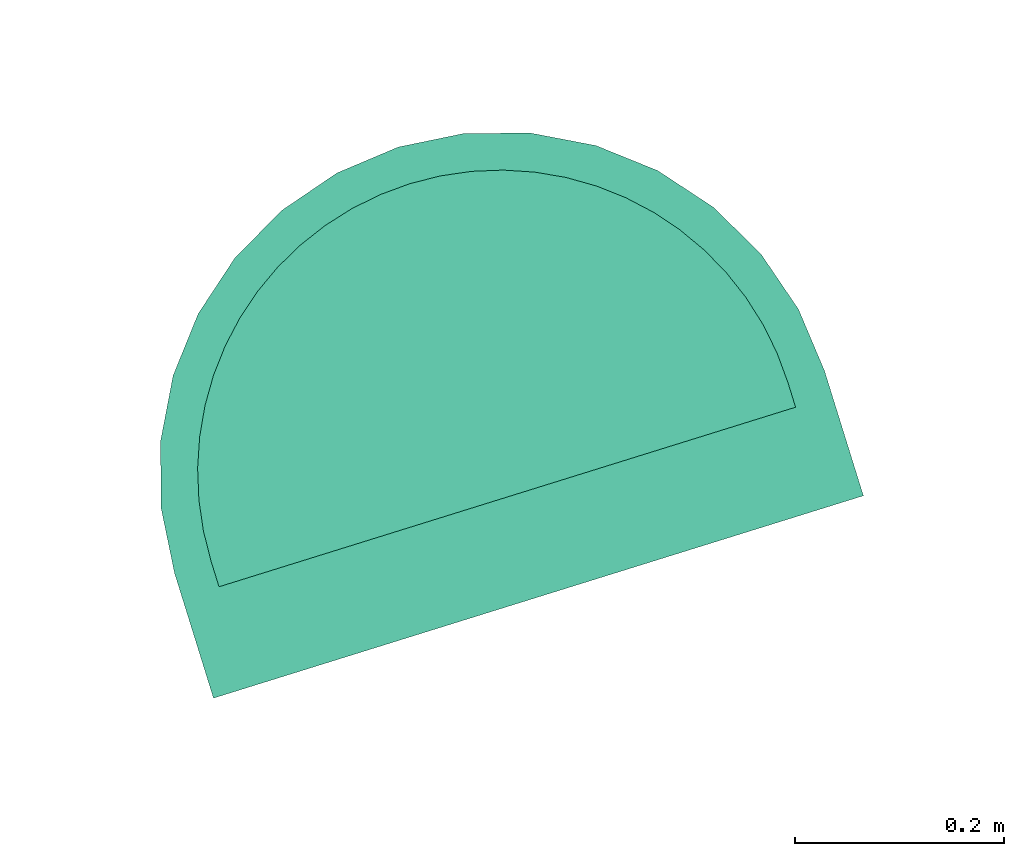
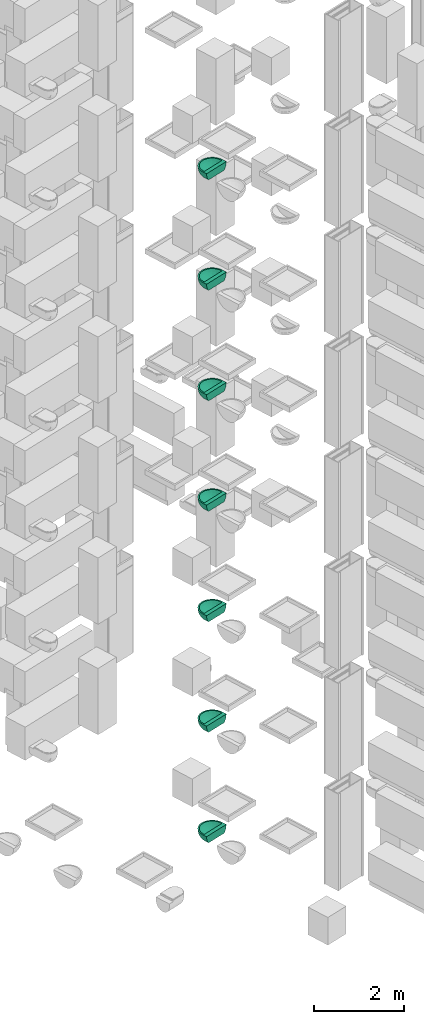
# Not in any storey, part 6 of 17: 7 sanitary terminals.
"""IFC4 model written with IfcOpenShell, lengths in metres."""

from ifc_helpers import new_model, entity, si_unit, converted_unit, direction, frame, origin, place, context, subcontext, project, polygons, source, transform, mapped, material, type_object, type_shapes, element, save


model = new_model("IFC4")

# Units and contexts
model_context = context("Model", 3, precision=1e-05, world=origin(), true_north=direction((6.12323399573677e-17, 1.0)))
body_context = subcontext(model_context, "Body", "Model", "MODEL_VIEW")
ifc_project = project(units=[si_unit("LENGTHUNIT", "METRE"), si_unit("AREAUNIT", "SQUARE_METRE"), converted_unit("PLANEANGLEUNIT", "DEGREE", entity("IfcPlaneAngleMeasure", 0.0174532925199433), si_unit("PLANEANGLEUNIT", "RADIAN"), dimensions=[0, 0, 0, 0, 0, 0, 0]), si_unit("VOLUMEUNIT", "CUBIC_METRE")], contexts=[model_context])

# Sanitary terminals
ifc_material = material(Name="<Unnamed>")
sanitary_terminal_type = type_object("IfcSanitaryTerminalType", Name="NLRS_74_PF_WB_wastafel_gen:wastafel", PredefinedType="SINK", material=ifc_material)
shared_shape = source(origin(), body_context, "Body", "Tessellation", [
    polygons([(0.346918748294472, -0.250000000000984, -6.7), (0.34246627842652, -0.250000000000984, -6.75361232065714), (0.329230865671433, -0.250000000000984, -6.8057556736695), (0.307575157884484, -0.250000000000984, -6.85500134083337), (0.278092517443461, -0.250000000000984, -6.9), (0.278092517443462, -0.124999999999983, -6.9), (0.307569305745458, -0.124999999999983, -6.85501212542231), (0.32922351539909, -0.124999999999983, -6.80577703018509), (0.342460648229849, -0.124999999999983, -6.75364597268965), (0.346918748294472, -0.124999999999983, -6.7), (-0.303081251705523, -0.250000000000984, -6.7), (-0.296836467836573, -0.313404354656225, -6.7), (-0.278342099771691, -0.374372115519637, -6.7), (-0.248308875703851, -0.430560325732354, -6.7), (-0.207890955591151, -0.479809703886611, -6.7), (-0.158641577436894, -0.52022762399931, -6.7), (-0.102453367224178, -0.550260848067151, -6.7), (-0.0414856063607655, -0.568755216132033, -6.7), (0.021918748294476, -0.575000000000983, -6.7), (0.021918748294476, -0.538314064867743, -6.7), (-0.00821701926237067, -0.536734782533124, -6.7), (-0.0380241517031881, -0.532013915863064, -6.7), (-0.0671705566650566, -0.524204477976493, -6.7), (-0.0953421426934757, -0.513391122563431, -6.7), (-0.122231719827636, -0.499691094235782, -6.7), (-0.147543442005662, -0.483254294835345, -6.7), (-0.170998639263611, -0.464261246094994, -6.7), (-0.192339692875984, -0.442920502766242, -6.7), (-0.21133265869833, -0.419466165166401, -6.7), (-0.227769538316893, -0.394155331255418, -6.7), (-0.241470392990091, -0.367265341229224, -6.7), (-0.252285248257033, -0.339090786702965, -6.7), (-0.260095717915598, -0.309940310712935, -6.7), (-0.264816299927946, -0.280133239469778, -6.7), (-0.266395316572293, -0.250000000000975, -6.7), (-0.266395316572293, -0.225000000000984, -6.7), (0.021918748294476, -0.225000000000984, -6.7), (0.021918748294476, -0.124999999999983, -6.7), (-0.303081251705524, -0.124999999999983, -6.7), (0.310232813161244, -0.225000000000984, -6.7), (0.310232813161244, -0.250000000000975, -6.7), (0.308653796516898, -0.280133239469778, -6.7), (0.303933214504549, -0.309940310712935, -6.7), (0.296122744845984, -0.339090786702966, -6.7), (0.285307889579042, -0.367265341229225, -6.7), (0.271607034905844, -0.394155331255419, -6.7), (0.255170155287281, -0.419466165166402, -6.7), (0.236177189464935, -0.442920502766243, -6.7), (0.214836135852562, -0.464261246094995, -6.7), (0.191380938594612, -0.483254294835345, -6.7), (0.166069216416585, -0.499691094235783, -6.7), (0.139179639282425, -0.513391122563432, -6.7), (0.111008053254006, -0.524204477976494, -6.7), (0.0818616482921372, -0.532013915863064, -6.7), (0.0520545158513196, -0.536734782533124, -6.7), (0.0853231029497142, -0.568755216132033, -6.7), (0.146290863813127, -0.550260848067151, -6.7), (0.202479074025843, -0.52022762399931, -6.7), (0.2517284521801, -0.479809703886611, -6.7), (0.292146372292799, -0.430560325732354, -6.7), (0.32217959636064, -0.374372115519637, -6.7), (0.340673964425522, -0.313404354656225, -6.7), (-0.298623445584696, -0.124999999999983, -6.75364421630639), (-0.285382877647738, -0.124999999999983, -6.80578615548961), (-0.26372299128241, -0.124999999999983, -6.85502837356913), (-0.234255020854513, -0.124999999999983, -6.9), (-0.234255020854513, -0.250000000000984, -6.9), (-0.263737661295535, -0.250000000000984, -6.85500134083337), (-0.285393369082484, -0.250000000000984, -6.8057556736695), (-0.298628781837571, -0.250000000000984, -6.75361232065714), (-0.232753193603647, -0.277698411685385, -6.9), (-0.228265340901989, -0.305071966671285, -6.9), (-0.220844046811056, -0.331799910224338, -6.9), (-0.210576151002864, -0.357569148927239, -6.9), (-0.197581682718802, -0.382077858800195, -6.9), (-0.182012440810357, -0.40503893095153, -6.9), (-0.164050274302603, -0.426183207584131, -6.9), (-0.1439051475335, -0.445262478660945, -6.9), (-0.121813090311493, -0.462052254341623, -6.9), (-0.0980340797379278, -0.476354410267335, -6.9), (-0.0728496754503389, -0.487999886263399, -6.9), (-0.0465597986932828, -0.496851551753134, -6.9), (-0.0194777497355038, -0.502806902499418, -6.9), (0.00807674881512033, -0.50579952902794, -6.9), (0.0357845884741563, -0.505798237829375, -6.9), (0.0633306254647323, -0.502804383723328, -6.9), (0.0904016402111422, -0.496850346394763, -6.9), (0.11668363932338, -0.488001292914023, -6.9), (0.141864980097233, -0.476357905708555, -6.9), (0.165644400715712, -0.46205644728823, -6.9), (0.18773840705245, -0.445266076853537, -6.9), (0.207885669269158, -0.426185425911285, -6.9), (0.225849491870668, -0.405039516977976, -6.9), (0.24141970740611, -0.38207698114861, -6.9), (0.254414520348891, -0.357567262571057, -6.9), (0.264682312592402, -0.331797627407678, -6.9), (0.272103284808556, -0.305069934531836, -6.9), (0.27659082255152, -0.277697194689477, -6.9), (-0.257045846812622, -0.372316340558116, -6.81332461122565), (0.300884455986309, -0.372313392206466, -6.81332505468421), (-0.00978342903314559, -0.571877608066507, -6.7), (-0.205655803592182, -0.453737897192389, -6.81102113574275), (0.249493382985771, -0.453737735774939, -6.81102126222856), (0.0536209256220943, -0.571877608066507, -6.7), (0.0219337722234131, -0.556913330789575, -6.80690747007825), (-0.0719694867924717, -0.559508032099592, -6.7), (0.11580698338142, -0.559508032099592, -6.7), (-0.0425022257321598, -0.546258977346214, -6.81707073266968), (-0.165040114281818, -0.491191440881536, -6.81179477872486), (0.20887408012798, -0.49119811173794, -6.81178629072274), (0.0863501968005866, -0.546256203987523, -6.8170719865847), (-0.23446246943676, -0.3802654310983, -6.85140868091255), (0.278301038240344, -0.380263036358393, -6.85140892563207), (-0.120243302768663, -0.518687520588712, -6.81498681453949), (0.164074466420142, -0.518691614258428, -6.81498507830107), (-0.233336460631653, -0.433005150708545, -6.78353976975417), (0.277175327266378, -0.433003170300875, -6.78353992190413), (-0.290060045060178, -0.315925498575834, -6.76283359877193), (0.333897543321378, -0.315925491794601, -6.76283359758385), (-0.275008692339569, -0.312028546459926, -6.81666856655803), (-0.254394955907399, -0.314447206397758, -6.85850014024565), (-0.272362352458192, -0.371908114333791, -6.76451391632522), (0.31884634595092, -0.312026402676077, -6.81666930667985), (0.298232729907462, -0.314444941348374, -6.85850057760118), (0.316201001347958, -0.371905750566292, -6.76451312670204), (-0.0755829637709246, -0.549402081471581, -6.78047862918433), (-0.0690330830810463, -0.524635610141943, -6.84808121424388), (0.119420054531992, -0.549406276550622, -6.7804635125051), (0.112885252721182, -0.524636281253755, -6.84807095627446), (-0.228099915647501, -0.455185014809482, -6.7), (0.27193741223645, -0.455185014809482, -6.7), (-0.183266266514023, -0.50001866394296, -6.7), (0.227103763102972, -0.50001866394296, -6.7), (-0.130547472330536, -0.53524423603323, -6.7), (0.174384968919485, -0.53524423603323, -6.7), (0.278352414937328, -0.250000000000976, -6.74966665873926), (0.238015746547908, -0.250000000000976, -6.79274902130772), (0.190552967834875, -0.250000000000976, -6.82782638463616), (0.137529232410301, -0.250000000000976, -6.85374202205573), (0.0806930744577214, -0.250000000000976, -6.86964132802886), (0.0219187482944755, -0.250000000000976, -6.875), (-0.0368555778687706, -0.250000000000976, -6.86964132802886), (-0.0936917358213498, -0.250000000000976, -6.85374202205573), (-0.146715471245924, -0.250000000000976, -6.82782638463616), (-0.194178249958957, -0.250000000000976, -6.79274902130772), (-0.234514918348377, -0.250000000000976, -6.74966665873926), (-0.119627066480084, -0.397173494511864, -6.80284332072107), (0.16346455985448, -0.397173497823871, -6.8028433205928), (-0.200517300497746, -0.337511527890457, -6.77020203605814), (0.244354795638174, -0.337511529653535, -6.77020203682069), (-0.162633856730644, -0.422041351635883, -6.75485875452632), (0.206471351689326, -0.422041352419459, -6.75485875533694), (0.00220012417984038, -0.442185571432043, -6.81134437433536), (-0.0912046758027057, -0.468814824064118, -6.76200981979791), (0.135042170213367, -0.468814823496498, -6.76200982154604), (0.0498196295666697, -0.355825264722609, -6.85601887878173), (-0.0620730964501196, -0.341760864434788, -6.85025041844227), (0.160889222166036, -0.323929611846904, -6.83433540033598), (0.0405814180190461, -0.492340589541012, -6.76574926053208), (0.0863370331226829, -0.429389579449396, -6.81323879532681), (-0.00909478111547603, -0.495066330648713, -6.76120050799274), (-0.0478694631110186, -0.456606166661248, -6.79097405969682), (-0.0422183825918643, -0.402597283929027, -6.82968821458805), (-0.00740806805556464, -0.361981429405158, -6.8536858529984), (-0.00719351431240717, -0.303117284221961, -6.869305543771), (-0.0504034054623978, -0.497275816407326, -6.7481140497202), (0.115439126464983, -0.373042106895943, -6.83590134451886), (0.101584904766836, -0.312319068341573, -6.85886022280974), (-0.144773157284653, -0.326326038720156, -6.81835264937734), (0.086060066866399, -0.493745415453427, -6.75518056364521), (0.278341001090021, -0.225000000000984, -6.74968131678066), (0.238003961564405, -0.225000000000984, -6.79275951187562), (0.19054233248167, -0.225000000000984, -6.82783283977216), (0.137520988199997, -0.225000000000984, -6.85374515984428), (0.080687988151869, -0.225000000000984, -6.86964226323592), (0.021917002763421, -0.225000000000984, -6.87499999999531), (-0.0368543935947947, -0.225000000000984, -6.869641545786), (-0.0936885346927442, -0.225000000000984, -6.85374324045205), (-0.146711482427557, -0.225000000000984, -6.8278288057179), (-0.19417475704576, -0.225000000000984, -6.79275213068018), (-0.234512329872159, -0.225000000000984, -6.74966998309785)], [[[7, 4, 5]], [[5, 6, 7]], [[4, 7, 8]], [[8, 3, 4]], [[10, 1, 2]], [[3, 9, 2]], [[10, 2, 9]], [[8, 9, 3]], [[19, 104, 56, 107, 57, 135, 58, 133, 59, 131, 60, 61, 62, 1, 10, 38, 39, 11, 12, 13, 14, 130, 15, 132, 16, 134, 17, 106, 18, 101], [20, 21, 22, 23, 24, 25, 26, 27, 28, 29, 30, 31, 32, 33, 34, 35, 36, 37, 40, 41, 42, 43, 44, 45, 46, 47, 48, 49, 50, 51, 52, 53, 54, 55]], [[39, 70, 11]], [[39, 63, 70]], [[69, 70, 63]], [[64, 69, 63]], [[65, 67, 68]], [[64, 65, 68]], [[66, 67, 65]], [[69, 64, 68]], [[9, 8, 7, 6, 66, 65, 64, 63, 39, 38, 10]], [[16, 102, 109]], [[60, 125, 61]], [[124, 123, 100]], [[77, 78, 109]], [[102, 116, 112]], [[109, 76, 77]], [[95, 113, 94]], [[76, 109, 102]], [[114, 109, 78]], [[125, 123, 119]], [[127, 81, 82]], [[105, 101, 108]], [[61, 125, 119]], [[108, 83, 84]], [[109, 114, 17]], [[18, 126, 108]], [[100, 117, 113]], [[114, 127, 126]], [[80, 114, 79]], [[17, 114, 106]], [[18, 106, 126]], [[96, 97, 124]], [[102, 112, 75]], [[118, 13, 12]], [[126, 106, 114]], [[69, 118, 70]], [[120, 99, 122]], [[11, 70, 12]], [[12, 70, 118]], [[131, 59, 117]], [[113, 117, 103]], [[14, 13, 122]], [[108, 127, 82]], [[105, 108, 84]], [[73, 121, 72]], [[112, 73, 74]], [[90, 91, 115]], [[132, 15, 116]], [[121, 68, 67]], [[84, 85, 105]], [[68, 120, 69]], [[120, 68, 121]], [[114, 80, 127]], [[105, 111, 104]], [[73, 112, 121]], [[102, 75, 76]], [[116, 130, 99]], [[67, 71, 121]], [[108, 126, 127]], [[56, 104, 111]], [[124, 5, 4]], [[112, 74, 75]], [[19, 101, 105]], [[19, 105, 104]], [[85, 111, 105]], [[18, 108, 101]], [[86, 87, 111]], [[90, 115, 89]], [[57, 107, 115]], [[103, 58, 110]], [[122, 118, 120]], [[99, 121, 112]], [[103, 110, 93]], [[78, 79, 114]], [[128, 111, 129]], [[100, 131, 117]], [[115, 91, 110]], [[93, 94, 103]], [[86, 111, 85]], [[121, 99, 120]], [[56, 111, 128]], [[118, 122, 13]], [[99, 112, 116]], [[134, 16, 109, 17]], [[110, 91, 92]], [[110, 92, 93]], [[129, 111, 87]], [[117, 133, 103]], [[113, 103, 94]], [[108, 82, 83]], [[123, 124, 4]], [[124, 113, 96]], [[107, 56, 128]], [[124, 100, 113]], [[113, 95, 96]], [[4, 3, 123]], [[124, 98, 5]], [[69, 120, 118]], [[2, 62, 119]], [[129, 88, 89]], [[133, 58, 103]], [[99, 130, 122]], [[62, 2, 1]], [[3, 2, 119]], [[102, 132, 116]], [[125, 100, 123]], [[124, 97, 98]], [[61, 119, 62]], [[135, 57, 110, 58]], [[71, 72, 121]], [[116, 15, 130]], [[131, 100, 125]], [[3, 119, 123]], [[80, 81, 127]], [[128, 115, 107]], [[129, 89, 115]], [[128, 129, 115]], [[88, 129, 87]], [[14, 122, 130]], [[125, 60, 131]], [[132, 102, 16]], [[133, 117, 59]], [[115, 110, 57]], [[151, 26, 25]], [[164, 153, 156]], [[151, 28, 27]], [[156, 168, 165]], [[153, 164, 163]], [[30, 151, 149]], [[25, 24, 154]], [[147, 163, 157]], [[159, 161, 20]], [[170, 160, 159]], [[143, 169, 157]], [[162, 153, 163]], [[162, 166, 161]], [[20, 161, 21]], [[151, 25, 154]], [[153, 162, 161]], [[166, 162, 154]], [[157, 163, 164]], [[32, 149, 33]], [[23, 166, 154]], [[146, 34, 33]], [[156, 160, 167]], [[168, 167, 158]], [[35, 34, 146]], [[149, 32, 31]], [[166, 22, 21]], [[145, 149, 169]], [[144, 169, 143]], [[167, 168, 156]], [[146, 149, 145]], [[33, 149, 146]], [[29, 28, 151]], [[30, 149, 31]], [[138, 150, 137]], [[23, 154, 24]], [[151, 30, 29]], [[156, 165, 164]], [[26, 151, 27]], [[147, 154, 162]], [[157, 165, 142]], [[159, 153, 161]], [[160, 155, 148]], [[155, 51, 152]], [[150, 158, 148]], [[139, 140, 168]], [[53, 52, 155]], [[170, 55, 54]], [[152, 51, 50]], [[152, 49, 48]], [[147, 162, 163]], [[46, 150, 152]], [[153, 159, 160]], [[53, 155, 170]], [[47, 46, 152]], [[148, 167, 160]], [[152, 50, 49]], [[165, 141, 142]], [[150, 46, 45]], [[155, 52, 51]], [[143, 157, 142]], [[158, 150, 138]], [[138, 139, 158]], [[152, 150, 148]], [[169, 149, 147]], [[157, 164, 165]], [[151, 154, 147]], [[150, 136, 137]], [[21, 161, 166]], [[22, 166, 23]], [[150, 43, 136]], [[136, 42, 41]], [[42, 136, 43]], [[159, 20, 55]], [[152, 48, 47]], [[141, 165, 168]], [[44, 43, 150]], [[44, 150, 45]], [[149, 151, 147]], [[167, 148, 158]], [[170, 54, 53]], [[153, 160, 156]], [[155, 152, 148]], [[139, 168, 158]], [[168, 140, 141]], [[157, 169, 147]], [[145, 169, 144]], [[160, 170, 155]], [[55, 170, 159]], [[146, 36, 35]], [[145, 181, 146]], [[179, 144, 143]], [[145, 144, 180]], [[178, 143, 142]], [[181, 36, 146]], [[180, 181, 145]], [[176, 177, 142]], [[178, 179, 143]], [[177, 178, 142]], [[180, 144, 179]], [[142, 141, 176]], [[175, 141, 140]], [[139, 174, 140]], [[172, 138, 137]], [[139, 138, 173]], [[171, 137, 136]], [[175, 140, 174]], [[174, 139, 173]], [[137, 171, 172]], [[172, 173, 138]], [[171, 136, 40]], [[41, 40, 136]], [[141, 175, 176]], [[40, 37, 36, 181, 180, 179, 178, 177, 176, 175, 174, 173, 172, 171]], [[5, 98, 97, 96, 95, 94, 93, 92, 91, 90, 89, 88, 87, 86, 85, 84, 83, 82, 81, 80, 79, 78, 77, 76, 75, 74, 73, 72, 71, 67, 66, 6]]], closed=True),
])
type_shapes(sanitary_terminal_type, [shared_shape])
placement_1 = place(None, frame((13.1347999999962, 11.9886000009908, 0.0), z_axis=(0.0, 0.0, 1.0), x_axis=(0.954770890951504, 0.297342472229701, 0.0)))
placement_2 = place(placement_1, origin())
placement_3 = place(placement_2, frame((0.0, 0.0, 6.9)))
placement_4 = place(placement_3, origin())
sanitary_terminal_1_placement = place(placement_4, frame((62.8469187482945, 11.8999999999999, 7.4), z_axis=(0.0, 0.0, 1.0), x_axis=(-1.0, 0.0, 0.0)))
element("IfcSanitaryTerminal", 1, at=sanitary_terminal_1_placement, type_object=sanitary_terminal_type, material=ifc_material, Name="NLRS_74_PF_WB_wastafel_gen:wastafel", ObjectType="NLRS_74_PF_WB_wastafel_gen:wastafel", PredefinedType="SINK", context=body_context, shape_type="MappedRepresentation", body=[
    mapped(shared_shape, transform((0.0, 0.0, 0.0), scale=1.0)),
])
placement_5 = place(placement_2, frame((0.0, 0.0, 9.9)))
placement_6 = place(placement_5, origin())
sanitary_terminal_2_placement = place(placement_6, frame((62.8469187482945, 11.8999999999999, 7.4), z_axis=(0.0, 0.0, 1.0), x_axis=(-1.0, 0.0, 0.0)))
element("IfcSanitaryTerminal", 2, at=sanitary_terminal_2_placement, type_object=sanitary_terminal_type, material=ifc_material, Name="NLRS_74_PF_WB_wastafel_gen:wastafel", ObjectType="NLRS_74_PF_WB_wastafel_gen:wastafel", PredefinedType="SINK", context=body_context, shape_type="MappedRepresentation", body=[
    mapped(shared_shape, transform((0.0, 0.0, 0.0), scale=1.0)),
])
placement_7 = place(placement_2, frame((0.0, 0.0, 12.9)))
placement_8 = place(placement_7, origin())
sanitary_terminal_3_placement = place(placement_8, frame((62.8469187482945, 11.8999999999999, 7.4), z_axis=(0.0, 0.0, 1.0), x_axis=(-1.0, 0.0, 0.0)))
element("IfcSanitaryTerminal", 3, at=sanitary_terminal_3_placement, type_object=sanitary_terminal_type, material=ifc_material, Name="NLRS_74_PF_WB_wastafel_gen:wastafel", ObjectType="NLRS_74_PF_WB_wastafel_gen:wastafel", PredefinedType="SINK", context=body_context, shape_type="MappedRepresentation", body=[
    mapped(shared_shape, transform((0.0, 0.0, 0.0), scale=1.0)),
])
placement_9 = place(placement_2, frame((0.0, 0.0, 15.9)))
placement_10 = place(placement_9, origin())
sanitary_terminal_4_placement = place(placement_10, frame((62.8469187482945, 11.8999999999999, 7.4), z_axis=(0.0, 0.0, 1.0), x_axis=(-1.0, 0.0, 0.0)))
element("IfcSanitaryTerminal", 4, at=sanitary_terminal_4_placement, type_object=sanitary_terminal_type, material=ifc_material, Name="NLRS_74_PF_WB_wastafel_gen:wastafel", ObjectType="NLRS_74_PF_WB_wastafel_gen:wastafel", PredefinedType="SINK", context=body_context, shape_type="MappedRepresentation", body=[
    mapped(shared_shape, transform((0.0, 0.0, 0.0), scale=1.0)),
])
placement_11 = place(placement_2, frame((0.0, 0.0, 18.9)))
placement_12 = place(placement_11, origin())
sanitary_terminal_5_placement = place(placement_12, frame((62.8469187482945, 11.8999999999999, 7.4), z_axis=(0.0, 0.0, 1.0), x_axis=(-1.0, 0.0, 0.0)))
element("IfcSanitaryTerminal", 5, at=sanitary_terminal_5_placement, type_object=sanitary_terminal_type, material=ifc_material, Name="NLRS_74_PF_WB_wastafel_gen:wastafel", ObjectType="NLRS_74_PF_WB_wastafel_gen:wastafel", PredefinedType="SINK", context=body_context, shape_type="MappedRepresentation", body=[
    mapped(shared_shape, transform((0.0, 0.0, 0.0), scale=1.0)),
])
placement_13 = place(placement_2, frame((0.0, 0.0, 21.9)))
placement_14 = place(placement_13, origin())
sanitary_terminal_6_placement = place(placement_14, frame((62.8469187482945, 11.8999999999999, 7.4), z_axis=(0.0, 0.0, 1.0), x_axis=(-1.0, 0.0, 0.0)))
element("IfcSanitaryTerminal", 6, at=sanitary_terminal_6_placement, type_object=sanitary_terminal_type, material=ifc_material, Name="NLRS_74_PF_WB_wastafel_gen:wastafel", ObjectType="NLRS_74_PF_WB_wastafel_gen:wastafel", PredefinedType="SINK", context=body_context, shape_type="MappedRepresentation", body=[
    mapped(shared_shape, transform((0.0, 0.0, 0.0), scale=1.0)),
])
placement_15 = place(placement_2, frame((0.0, 0.0, 24.9)))
placement_16 = place(placement_15, origin())
sanitary_terminal_7_placement = place(placement_16, frame((62.8469187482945, 11.8999999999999, 7.4), z_axis=(0.0, 0.0, 1.0), x_axis=(-1.0, 0.0, 0.0)))
element("IfcSanitaryTerminal", 7, at=sanitary_terminal_7_placement, type_object=sanitary_terminal_type, material=ifc_material, Name="NLRS_74_PF_WB_wastafel_gen:wastafel", ObjectType="NLRS_74_PF_WB_wastafel_gen:wastafel", PredefinedType="SINK", context=body_context, shape_type="MappedRepresentation", body=[
    mapped(shared_shape, transform((0.0, 0.0, 0.0), scale=1.0)),
])

save(model, "model.ifc")
